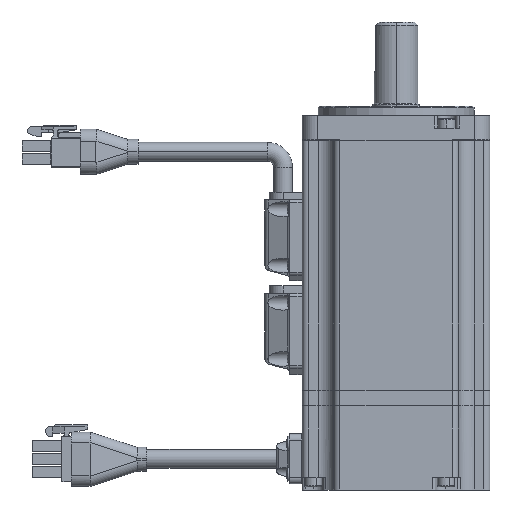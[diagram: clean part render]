
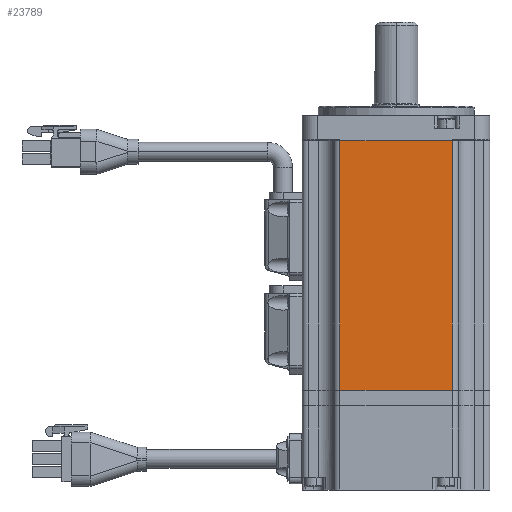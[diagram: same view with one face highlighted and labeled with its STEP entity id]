
A CAD part, left-side view. The second image highlights one B-rep face of the part: STEP entity #23789.
In plain terms, the highlighted planar face has unit normal (-1, 0, 0).
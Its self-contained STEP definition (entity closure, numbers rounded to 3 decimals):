
#13910 = AXIS2_PLACEMENT_3D ( 'NONE', #22769, #22775, #22776 ) ;
#14874 = FACE_OUTER_BOUND ( 'NONE', #33268, .T. ) ;
#22769 = CARTESIAN_POINT ( 'NONE',  ( -30.1, 20., 80. ) ) ;
#22773 = PLANE ( 'NONE',  #13910 ) ;
#22775 = DIRECTION ( 'NONE',  ( 1., 0., 0. ) ) ;
#22776 = DIRECTION ( 'NONE',  ( 0., 1., 0. ) ) ;
#23789 = ADVANCED_FACE ( 'NONE', ( #14874 ), #22773, .F. ) ;
#31083 = VERTEX_POINT ( 'NONE', #41008 ) ;
#31084 = VERTEX_POINT ( 'NONE', #41009 ) ;
#31102 = VERTEX_POINT ( 'NONE', #41027 ) ;
#31105 = VERTEX_POINT ( 'NONE', #41030 ) ;
#33268 = EDGE_LOOP ( 'NONE', ( #35791, #35792, #35793, #35794 ) ) ;
#35791 = ORIENTED_EDGE ( 'NONE', *, *, #36702, .T. ) ;
#35792 = ORIENTED_EDGE ( 'NONE', *, *, #36771, .T. ) ;
#35793 = ORIENTED_EDGE ( 'NONE', *, *, #36643, .F. ) ;
#35794 = ORIENTED_EDGE ( 'NONE', *, *, #36773, .T. ) ;
#36643 = EDGE_CURVE ( 'NONE', #31083, #31084, #38834, .T. ) ;
#36702 = EDGE_CURVE ( 'NONE', #31102, #31105, #38872, .T. ) ;
#36771 = EDGE_CURVE ( 'NONE', #31105, #31084, #38927, .T. ) ;
#36773 = EDGE_CURVE ( 'NONE', #31083, #31102, #38929, .T. ) ;
#38834 = LINE ( 'NONE', #42435, #38836 ) ;
#38836 = VECTOR ( 'NONE', #42436, 1000. ) ;
#38872 = LINE ( 'NONE', #42561, #38874 ) ;
#38874 = VECTOR ( 'NONE', #42556, 1000. ) ;
#38927 = LINE ( 'NONE', #42674, #38930 ) ;
#38929 = LINE ( 'NONE', #42679, #38932 ) ;
#38930 = VECTOR ( 'NONE', #42677, 1000. ) ;
#38932 = VECTOR ( 'NONE', #42681, 1000. ) ;
#41008 = CARTESIAN_POINT ( 'NONE',  ( -30.1, 18., 80. ) ) ;
#41009 = CARTESIAN_POINT ( 'NONE',  ( -30.1, -18., 80. ) ) ;
#41027 = CARTESIAN_POINT ( 'NONE',  ( -30.1, 18., 0. ) ) ;
#41030 = CARTESIAN_POINT ( 'NONE',  ( -30.1, -18., 0. ) ) ;
#42435 = CARTESIAN_POINT ( 'NONE',  ( -30.1, 20., 80. ) ) ;
#42436 = DIRECTION ( 'NONE',  ( 0., -1., 0. ) ) ;
#42556 = DIRECTION ( 'NONE',  ( 0., -1., 0. ) ) ;
#42561 = CARTESIAN_POINT ( 'NONE',  ( -30.1, 20., 0. ) ) ;
#42674 = CARTESIAN_POINT ( 'NONE',  ( -30.1, -18., 80. ) ) ;
#42677 = DIRECTION ( 'NONE',  ( 0., 0., 1. ) ) ;
#42679 = CARTESIAN_POINT ( 'NONE',  ( -30.1, 18., 80. ) ) ;
#42681 = DIRECTION ( 'NONE',  ( 0., 0., -1. ) ) ;
